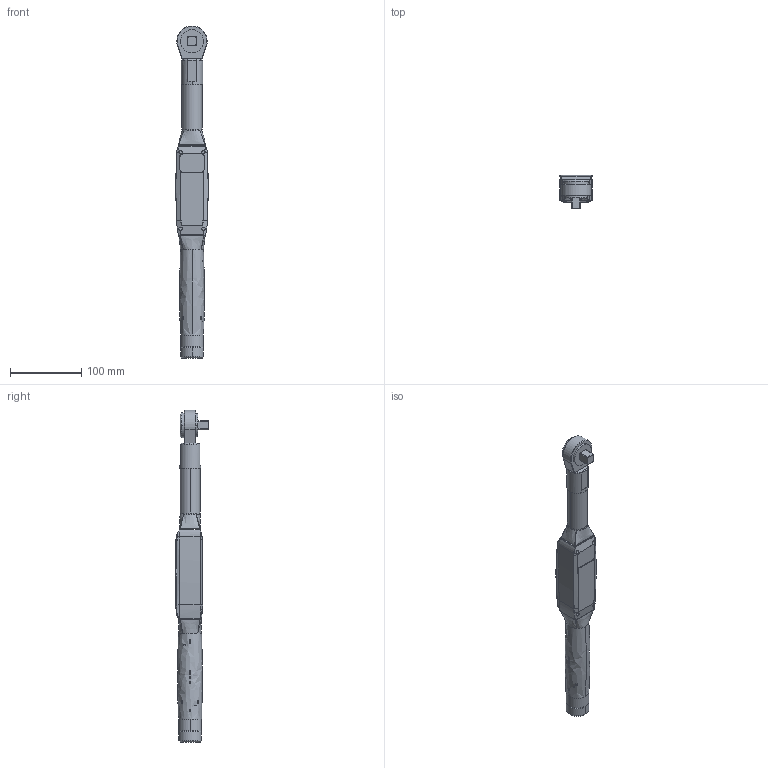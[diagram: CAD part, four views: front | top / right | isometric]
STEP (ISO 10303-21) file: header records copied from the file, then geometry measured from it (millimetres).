
FILE_DESCRIPTION((''),'2;1');
FILE_NAME('6159352110_DIM','2021-06-28T09:18:54',('S00000450'),(''),'CREO PARAMETRIC BY PTC INC, 2021072','CREO PARAMETRIC BY PTC INC, 2021072','');
FILE_SCHEMA(('AP242_MANAGED_MODEL_BASED_3D_ENGINEERING_MIM_LF { 1 0 10303 442 1 1 4 }'));
Length unit declared in the file: millimetre
Products named in the file (1): 6159352110_DIM
Bounding box: 45.16 x 47.45 x 464.68 mm (x, y, z)
Surface area: 68001.4 mm2 (no closed solid volume)
Topology: 0 solids, 42 shells, 276 faces, 824 edges, 557 vertices
Faces by surface type: bspline 112, cylinder 67, plane 61, cone 16, extrusion 8, sphere 8, torus 4
Entity records: 23557 total; most frequent: CARTESIAN_POINT 15733, ORIENTED_EDGE 1283, DIRECTION 1010, EDGE_CURVE 814, VERTEX_POINT 557, AXIS2_PLACEMENT_3D 384, B_SPLINE_CURVE_WITH_KNOTS 360, EDGE_LOOP 276
